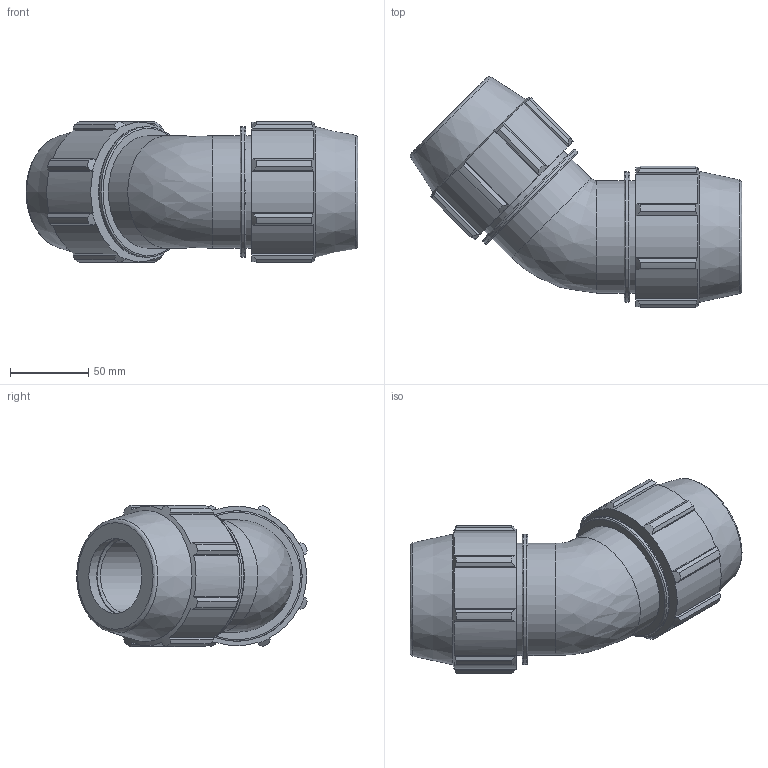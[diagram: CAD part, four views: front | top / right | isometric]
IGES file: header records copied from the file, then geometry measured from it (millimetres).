
Global section: file name: 0706M0015.ipt; native system: Autodesk Inventor 2019; preprocessor: unknown; author: KIM; date: 20210826.124626; units: inch
Bounding box: 212.57 x 147.76 x 90.34 mm (x, y, z)
Volume: 729942 mm3; surface area: 107325.8 mm2
Topology: 1 solids, 1 shells, 146 faces, 417 edges, 281 vertices
Faces by surface type: plane 74, cylinder 38, cone 20, revolution 14
Full cylindrical faces by diameter (mm): 72.009 x4, 83.53 x2
